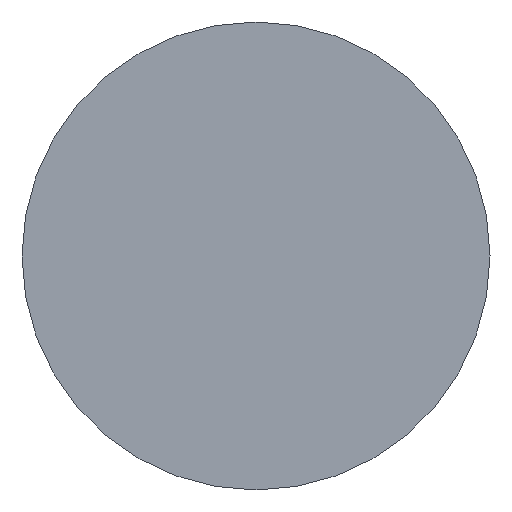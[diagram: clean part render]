
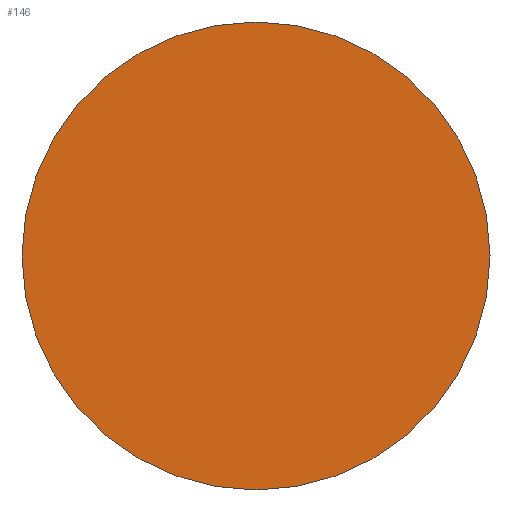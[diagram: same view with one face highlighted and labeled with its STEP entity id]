
A CAD part, front view. The second image highlights one B-rep face of the part: STEP entity #146.
In plain terms, the highlighted planar face has unit normal (0, -1, 0) as drawn and (0, 0, 1) by its records, which use the part's own axes.
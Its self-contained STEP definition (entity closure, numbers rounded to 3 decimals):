
#62 = EDGE_CURVE('',#63,#63,#65,.T.);
#63 = VERTEX_POINT('',#64);
#64 = CARTESIAN_POINT('',(4.,0.,0.75));
#65 = SURFACE_CURVE('',#66,(#71,#83),.PCURVE_S1.);
#66 = CIRCLE('',#67,4.);
#67 = AXIS2_PLACEMENT_3D('',#68,#69,#70);
#68 = CARTESIAN_POINT('',(0.,0.,0.75));
#69 = DIRECTION('',(0.,0.,1.));
#70 = DIRECTION('',(1.,0.,-0.));
#71 = PCURVE('',#72,#77);
#72 = CYLINDRICAL_SURFACE('',#73,4.);
#73 = AXIS2_PLACEMENT_3D('',#74,#75,#76);
#74 = CARTESIAN_POINT('',(0.,0.,-0.75));
#75 = DIRECTION('',(0.,0.,1.));
#76 = DIRECTION('',(1.,0.,-0.));
#77 = DEFINITIONAL_REPRESENTATION('',(#78),#82);
#78 = LINE('',#79,#80);
#79 = CARTESIAN_POINT('',(0.,1.5));
#80 = VECTOR('',#81,1.);
#81 = DIRECTION('',(1.,0.));
#82 = ( GEOMETRIC_REPRESENTATION_CONTEXT(2) 
PARAMETRIC_REPRESENTATION_CONTEXT() REPRESENTATION_CONTEXT('2D SPACE',''
  ) );
#83 = PCURVE('',#84,#89);
#84 = PLANE('',#85);
#85 = AXIS2_PLACEMENT_3D('',#86,#87,#88);
#86 = CARTESIAN_POINT('',(0.,0.,0.75));
#87 = DIRECTION('',(0.,0.,1.));
#88 = DIRECTION('',(1.,0.,-0.));
#89 = DEFINITIONAL_REPRESENTATION('',(#90),#94);
#90 = CIRCLE('',#91,4.);
#91 = AXIS2_PLACEMENT_2D('',#92,#93);
#92 = CARTESIAN_POINT('',(0.,0.));
#93 = DIRECTION('',(1.,0.));
#94 = ( GEOMETRIC_REPRESENTATION_CONTEXT(2) 
PARAMETRIC_REPRESENTATION_CONTEXT() REPRESENTATION_CONTEXT('2D SPACE',''
  ) );
#146 = ADVANCED_FACE('',(#147),#84,.T.);
#147 = FACE_BOUND('',#148,.T.);
#148 = EDGE_LOOP('',(#149));
#149 = ORIENTED_EDGE('',*,*,#62,.T.);
